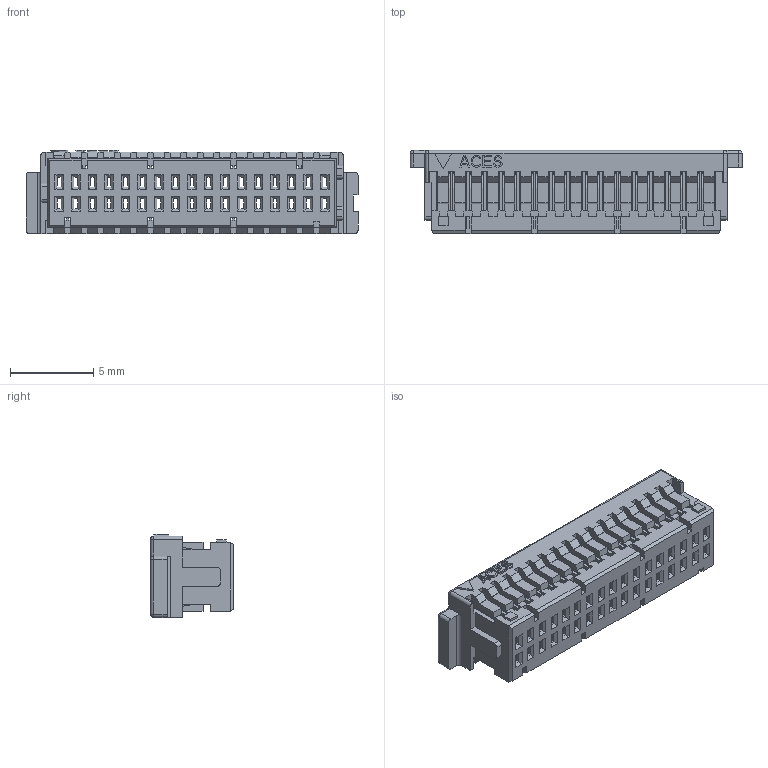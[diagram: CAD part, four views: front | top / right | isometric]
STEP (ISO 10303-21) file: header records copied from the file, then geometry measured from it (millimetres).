
FILE_DESCRIPTION((''),'2;1');
FILE_NAME('S-50247-034HXXX-XXX','2010-02-12T',('snow'),(''),'PRO/ENGINEER BY PARAMETRIC TECHNOLOGY CORPORATION, 2007450','PRO/ENGINEER BY PARAMETRIC TECHNOLOGY CORPORATION, 2007450','');
FILE_SCHEMA(('CONFIG_CONTROL_DESIGN'));
Length unit declared in the file: millimetre
Products named in the file (1): S-50247-034HXXX-XXX
Bounding box: 20 x 5 x 5 mm (x, y, z)
Volume: 193.3 mm3; surface area: 1191.4 mm2
Topology: 1 solids, 1 shells, 1847 faces, 5350 edges, 3442 vertices
Faces by surface type: plane 1818, cylinder 23, sphere 6
Entity records: 59386 total; most frequent: ORIENTED_EDGE 10688, CARTESIAN_POINT 10649, DIRECTION 9082, EDGE_CURVE 5344, VECTOR 5296, LINE 5296, VERTEX_POINT 3442, EDGE_LOOP 1954
